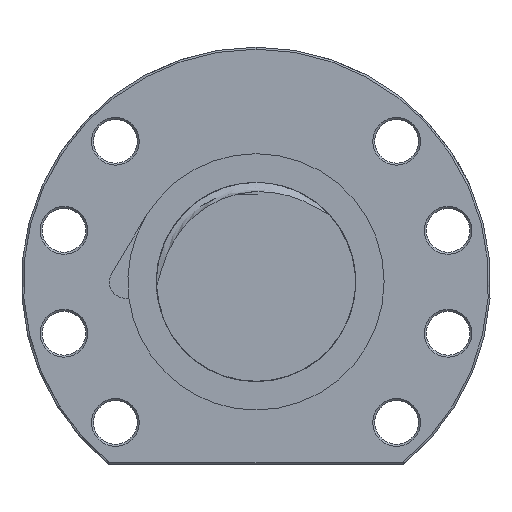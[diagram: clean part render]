
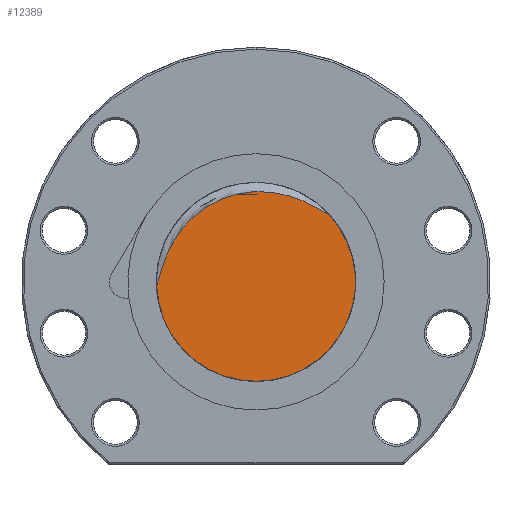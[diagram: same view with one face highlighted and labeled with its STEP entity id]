
A CAD part, left-side view. The second image highlights one B-rep face of the part: STEP entity #12389.
In plain terms, the highlighted planar face has unit normal (-1, 0, 0).
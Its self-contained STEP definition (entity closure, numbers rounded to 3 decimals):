
#11495 = EDGE_CURVE ( 'NONE', #11665, #11658, #21862, .T. ) ;
#11630 = EDGE_CURVE ( 'NONE', #11631, #11665, #15087, .T. ) ;
#11631 = VERTEX_POINT ( 'NONE', #15074 ) ;
#11658 = VERTEX_POINT ( 'NONE', #16304 ) ;
#11665 = VERTEX_POINT ( 'NONE', #16184 ) ;
#12389 = ADVANCED_FACE ( 'NONE', ( #19728 ), #20039, .F. ) ;
#12394 = EDGE_LOOP ( 'NONE', ( #12396, #12398, #12402 ) ) ;
#12396 = ORIENTED_EDGE ( 'NONE', *, *, #11630, .F. ) ;
#12398 = ORIENTED_EDGE ( 'NONE', *, *, #12399, .T. ) ;
#12399 = EDGE_CURVE ( 'NONE', #11631, #11658, #20021, .T. ) ;
#12402 = ORIENTED_EDGE ( 'NONE', *, *, #11495, .F. ) ;
#15074 = CARTESIAN_POINT ( 'NONE',  ( -189., -18.443, 16.878 ) ) ;
#15077 = DIRECTION ( 'NONE',  ( 0., 1., 0. ) ) ;
#15079 = DIRECTION ( 'NONE',  ( 1., 0., 0. ) ) ;
#15082 = CARTESIAN_POINT ( 'NONE',  ( -189., 0., 0. ) ) ;
#15085 = AXIS2_PLACEMENT_3D ( 'NONE', #15082, #15079, #15077 ) ;
#15087 = CIRCLE ( 'NONE', #15085, 25. ) ;
#16184 = CARTESIAN_POINT ( 'NONE',  ( -189., 0., -25. ) ) ;
#16304 = CARTESIAN_POINT ( 'NONE',  ( -189., 24.976, -1.104 ) ) ;
#19728 = FACE_OUTER_BOUND ( 'NONE', #12394, .T. ) ;
#19922 = CARTESIAN_POINT ( 'NONE',  ( -189., 24.976, -1.104 ) ) ;
#19924 = CARTESIAN_POINT ( 'NONE',  ( -189., 24.865, -0.826 ) ) ;
#19925 = CARTESIAN_POINT ( 'NONE',  ( -189., 24.776, -0.541 ) ) ;
#19927 = CARTESIAN_POINT ( 'NONE',  ( -189., 24.606, 0.032 ) ) ;
#19929 = CARTESIAN_POINT ( 'NONE',  ( -189., 24.527, 0.32 ) ) ;
#19931 = CARTESIAN_POINT ( 'NONE',  ( -189., 24.292, 1.185 ) ) ;
#19933 = CARTESIAN_POINT ( 'NONE',  ( -189., 24.139, 1.763 ) ) ;
#19935 = CARTESIAN_POINT ( 'NONE',  ( -189., 23.815, 2.912 ) ) ;
#19937 = CARTESIAN_POINT ( 'NONE',  ( -189., 23.644, 3.485 ) ) ;
#19940 = CARTESIAN_POINT ( 'NONE',  ( -189., 23.274, 4.622 ) ) ;
#19942 = CARTESIAN_POINT ( 'NONE',  ( -189., 23.076, 5.187 ) ) ;
#19944 = CARTESIAN_POINT ( 'NONE',  ( -189., 22.439, 6.857 ) ) ;
#19946 = CARTESIAN_POINT ( 'NONE',  ( -189., 21.956, 7.94 ) ) ;
#19948 = CARTESIAN_POINT ( 'NONE',  ( -189., 20.854, 10.036 ) ) ;
#19950 = CARTESIAN_POINT ( 'NONE',  ( -189., 20.236, 11.05 ) ) ;
#19952 = CARTESIAN_POINT ( 'NONE',  ( -189., 19.199, 12.514 ) ) ;
#19953 = CARTESIAN_POINT ( 'NONE',  ( -189., 18.837, 12.991 ) ) ;
#19955 = CARTESIAN_POINT ( 'NONE',  ( -189., 18.086, 13.912 ) ) ;
#19957 = CARTESIAN_POINT ( 'NONE',  ( -189., 17.696, 14.358 ) ) ;
#19959 = CARTESIAN_POINT ( 'NONE',  ( -189., 16.486, 15.652 ) ) ;
#19961 = CARTESIAN_POINT ( 'NONE',  ( -189., 15.623, 16.456 ) ) ;
#19962 = CARTESIAN_POINT ( 'NONE',  ( -189., 14.243, 17.57 ) ) ;
#19965 = CARTESIAN_POINT ( 'NONE',  ( -189., 13.768, 17.925 ) ) ;
#19967 = CARTESIAN_POINT ( 'NONE',  ( -189., 12.788, 18.605 ) ) ;
#19969 = CARTESIAN_POINT ( 'NONE',  ( -189., 12.281, 18.93 ) ) ;
#19971 = CARTESIAN_POINT ( 'NONE',  ( -189., 10.742, 19.84 ) ) ;
#19973 = CARTESIAN_POINT ( 'NONE',  ( -189., 9.684, 20.367 ) ) ;
#19975 = CARTESIAN_POINT ( 'NONE',  ( -189., 7.506, 21.268 ) ) ;
#19977 = CARTESIAN_POINT ( 'NONE',  ( -189., 6.385, 21.642 ) ) ;
#19979 = CARTESIAN_POINT ( 'NONE',  ( -189., 4.656, 22.081 ) ) ;
#19981 = CARTESIAN_POINT ( 'NONE',  ( -189., 4.068, 22.208 ) ) ;
#19982 = CARTESIAN_POINT ( 'NONE',  ( -189., 2.891, 22.417 ) ) ;
#19983 = CARTESIAN_POINT ( 'NONE',  ( -189., 2.301, 22.5 ) ) ;
#19984 = CARTESIAN_POINT ( 'NONE',  ( -189., 0.532, 22.685 ) ) ;
#19986 = CARTESIAN_POINT ( 'NONE',  ( -189., -0.65, 22.725 ) ) ;
#19988 = CARTESIAN_POINT ( 'NONE',  ( -189., -2.427, 22.663 ) ) ;
#19990 = CARTESIAN_POINT ( 'NONE',  ( -189., -3.02, 22.622 ) ) ;
#19992 = CARTESIAN_POINT ( 'NONE',  ( -189., -4.207, 22.498 ) ) ;
#19994 = CARTESIAN_POINT ( 'NONE',  ( -189., -4.802, 22.415 ) ) ;
#19996 = CARTESIAN_POINT ( 'NONE',  ( -189., -7.738, 21.903 ) ) ;
#19998 = CARTESIAN_POINT ( 'NONE',  ( -189., -9.978, 21.181 ) ) ;
#20000 = CARTESIAN_POINT ( 'NONE',  ( -189., -13.211, 19.733 ) ) ;
#20002 = CARTESIAN_POINT ( 'NONE',  ( -189., -14.269, 19.187 ) ) ;
#20004 = CARTESIAN_POINT ( 'NONE',  ( -189., -15.83, 18.313 ) ) ;
#20006 = CARTESIAN_POINT ( 'NONE',  ( -189., -16.346, 18.013 ) ) ;
#20008 = CARTESIAN_POINT ( 'NONE',  ( -189., -17.121, 17.567 ) ) ;
#20010 = CARTESIAN_POINT ( 'NONE',  ( -189., -17.38, 17.419 ) ) ;
#20012 = CARTESIAN_POINT ( 'NONE',  ( -189., -17.904, 17.134 ) ) ;
#20013 = CARTESIAN_POINT ( 'NONE',  ( -189., -18.17, 16.996 ) ) ;
#20015 = CARTESIAN_POINT ( 'NONE',  ( -189., -18.443, 16.878 ) ) ;
#20021 = B_SPLINE_CURVE_WITH_KNOTS ( 'NONE', 3,
 ( #20015, #20013, #20012, #20010, #20008, #20006, #20004, #20002, #20000, #19998, #19996, #19994, #19992, #19990, #19988, #19986, #19984, #19983, #19982, #19981, #19979, #19977, #19975, #19973, #19971, #19969, #19967, #19965, #19962, #19961, #19959, #19957, #19955, #19953, #19952, #19950, #19948, #19946, #19944, #19942, #19940, #19937, #19935, #19933, #19931, #19929, #19927, #19925, #19924, #19922 ),
 .UNSPECIFIED., .F., .F.,
 ( 4, 2, 2, 2, 2, 2, 2, 2, 2, 2, 2, 2, 2, 2, 2, 2, 2, 2, 2, 2, 2, 2, 2, 2, 4 ),
 ( 0.013, 0.014, 0.015, 0.016, 0.02, 0.027, 0.029, 0.03, 0.034, 0.036, 0.038, 0.041, 0.045, 0.046, 0.048, 0.052, 0.054, 0.055, 0.059, 0.062, 0.064, 0.066, 0.068, 0.069, 0.069 ),
 .UNSPECIFIED. ) ;
#20030 = DIRECTION ( 'NONE',  ( 0., 0., -1. ) ) ;
#20031 = DIRECTION ( 'NONE',  ( 1., 0., 0. ) ) ;
#20032 = CARTESIAN_POINT ( 'NONE',  ( -189., 0., 0. ) ) ;
#20034 = AXIS2_PLACEMENT_3D ( 'NONE', #20032, #20031, #20030 ) ;
#20039 = PLANE ( 'NONE',  #20034 ) ;
#21856 = DIRECTION ( 'NONE',  ( 0., 1., 0. ) ) ;
#21857 = DIRECTION ( 'NONE',  ( 1., 0., 0. ) ) ;
#21859 = CARTESIAN_POINT ( 'NONE',  ( -189., 0., 0. ) ) ;
#21860 = AXIS2_PLACEMENT_3D ( 'NONE', #21859, #21857, #21856 ) ;
#21862 = CIRCLE ( 'NONE', #21860, 25. ) ;
